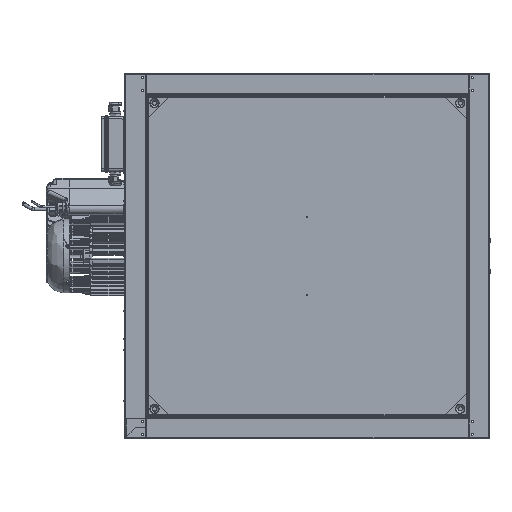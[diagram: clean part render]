
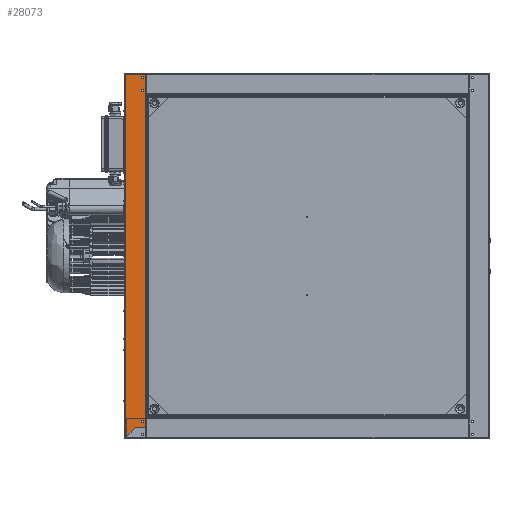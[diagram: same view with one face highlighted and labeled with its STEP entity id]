
A CAD part, left-side view. The second image highlights one B-rep face of the part: STEP entity #28073.
In plain terms, the highlighted planar face has unit normal (-1, 0, 0).
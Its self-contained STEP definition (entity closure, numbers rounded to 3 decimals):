
#166 = EDGE_CURVE ( 'NONE', #114293, #56010, #72582, .T. ) ;
#188 = DIRECTION ( 'NONE',  ( 0., 0.707, -0.707 ) ) ;
#2034 = ORIENTED_EDGE ( 'NONE', *, *, #84152, .T. ) ;
#2140 = CARTESIAN_POINT ( 'NONE',  ( -350., 313.9, 317.2 ) ) ;
#3537 = CARTESIAN_POINT ( 'NONE',  ( -350., 310.2, 348. ) ) ;
#6644 = VECTOR ( 'NONE', #188, 1000. ) ;
#6747 = DIRECTION ( 'NONE',  ( 0., -1., 0. ) ) ;
#7283 = DIRECTION ( 'NONE',  ( 0., -1., 0. ) ) ;
#8152 = VECTOR ( 'NONE', #7283, 1000. ) ;
#10938 = EDGE_LOOP ( 'NONE', ( #107677, #104925, #64910, #2034, #51948, #65530, #93089, #121740, #33857 ) ) ;
#11265 = VERTEX_POINT ( 'NONE', #112059 ) ;
#11554 = LINE ( 'NONE', #80572, #62040 ) ;
#11772 = CARTESIAN_POINT ( 'NONE',  ( -350., 348., 348.95 ) ) ;
#13887 = EDGE_LOOP ( 'NONE', ( #26558, #129930 ) ) ;
#14284 = PLANE ( 'NONE',  #72670 ) ;
#14961 = CARTESIAN_POINT ( 'NONE',  ( -350., 313.9, -317.2 ) ) ;
#17483 = CARTESIAN_POINT ( 'NONE',  ( -350., 310.7, -310.05 ) ) ;
#17492 = AXIS2_PLACEMENT_3D ( 'NONE', #110754, #37481, #40628 ) ;
#17962 = VECTOR ( 'NONE', #80640, 1000. ) ;
#20873 = ORIENTED_EDGE ( 'NONE', *, *, #109828, .F. ) ;
#21629 = VERTEX_POINT ( 'NONE', #77796 ) ;
#22605 = DIRECTION ( 'NONE',  ( -1., 0., 0. ) ) ;
#23143 = FACE_OUTER_BOUND ( 'NONE', #10938, .T. ) ;
#23406 = CARTESIAN_POINT ( 'NONE',  ( -350., 329.75, -329.1 ) ) ;
#24445 = DIRECTION ( 'NONE',  ( 0., 1., 0. ) ) ;
#25488 = VERTEX_POINT ( 'NONE', #25745 ) ;
#25745 = CARTESIAN_POINT ( 'NONE',  ( -350., 318.1, 317.2 ) ) ;
#26558 = ORIENTED_EDGE ( 'NONE', *, *, #93477, .F. ) ;
#28073 = ADVANCED_FACE ( 'NONE', ( #32718, #127507, #100612, #23143 ), #14284, .F. ) ;
#28160 = VERTEX_POINT ( 'NONE', #60060 ) ;
#29785 = EDGE_LOOP ( 'NONE', ( #20873, #64457 ) ) ;
#31087 = ORIENTED_EDGE ( 'NONE', *, *, #68506, .F. ) ;
#31294 = DIRECTION ( 'NONE',  ( -1., 0., 0. ) ) ;
#31893 = LINE ( 'NONE', #67693, #8152 ) ;
#32346 = VERTEX_POINT ( 'NONE', #58824 ) ;
#32610 = VECTOR ( 'NONE', #105358, 1000. ) ;
#32718 = FACE_BOUND ( 'NONE', #126374, .T. ) ;
#33857 = ORIENTED_EDGE ( 'NONE', *, *, #116671, .T. ) ;
#35409 = VECTOR ( 'NONE', #86029, 1000. ) ;
#36002 = CARTESIAN_POINT ( 'NONE',  ( -350., 316., 317.2 ) ) ;
#37481 = DIRECTION ( 'NONE',  ( -1., 0., 0. ) ) ;
#38557 = LINE ( 'NONE', #126366, #35409 ) ;
#39459 = CIRCLE ( 'NONE', #48799, 2.1 ) ;
#40628 = DIRECTION ( 'NONE',  ( 0., -1., 0. ) ) ;
#46092 = DIRECTION ( 'NONE',  ( 0., -1., 0. ) ) ;
#48799 = AXIS2_PLACEMENT_3D ( 'NONE', #83107, #22605, #93298 ) ;
#49241 = DIRECTION ( 'NONE',  ( -1., 0., 0. ) ) ;
#51948 = ORIENTED_EDGE ( 'NONE', *, *, #82629, .T. ) ;
#56010 = VERTEX_POINT ( 'NONE', #112890 ) ;
#58824 = CARTESIAN_POINT ( 'NONE',  ( -350., 310.2, 311.65 ) ) ;
#60060 = CARTESIAN_POINT ( 'NONE',  ( -350., 318.1, -317.2 ) ) ;
#60966 = CARTESIAN_POINT ( 'NONE',  ( -350., 310.2, -310.05 ) ) ;
#62040 = VECTOR ( 'NONE', #70410, 1000. ) ;
#63454 = LINE ( 'NONE', #121330, #6644 ) ;
#64129 = CARTESIAN_POINT ( 'NONE',  ( -350., 310.7, 348.95 ) ) ;
#64457 = ORIENTED_EDGE ( 'NONE', *, *, #106877, .F. ) ;
#64888 = VERTEX_POINT ( 'NONE', #14961 ) ;
#64910 = ORIENTED_EDGE ( 'NONE', *, *, #111955, .F. ) ;
#65171 = CIRCLE ( 'NONE', #117370, 2.1 ) ;
#65530 = ORIENTED_EDGE ( 'NONE', *, *, #94560, .T. ) ;
#65707 = LINE ( 'NONE', #17483, #116430 ) ;
#67163 = DIRECTION ( 'NONE',  ( -1., 0., 0. ) ) ;
#67693 = CARTESIAN_POINT ( 'NONE',  ( -350., 310.7, 311.65 ) ) ;
#68506 = EDGE_CURVE ( 'NONE', #28160, #64888, #39459, .T. ) ;
#70410 = DIRECTION ( 'NONE',  ( 0., 0., 1. ) ) ;
#70488 = CARTESIAN_POINT ( 'NONE',  ( -350., 310.2, -329.1 ) ) ;
#71551 = CARTESIAN_POINT ( 'NONE',  ( -350., 310.2, -310.05 ) ) ;
#71673 = LINE ( 'NONE', #70488, #17962 ) ;
#71980 = DIRECTION ( 'NONE',  ( 0., 0., 1. ) ) ;
#72582 = CIRCLE ( 'NONE', #17492, 2.1 ) ;
#72670 = AXIS2_PLACEMENT_3D ( 'NONE', #125258, #84924, #24445 ) ;
#73213 = CARTESIAN_POINT ( 'NONE',  ( -350., 348., -347.35 ) ) ;
#73564 = AXIS2_PLACEMENT_3D ( 'NONE', #91740, #31294, #101980 ) ;
#76466 = VERTEX_POINT ( 'NONE', #2140 ) ;
#77796 = CARTESIAN_POINT ( 'NONE',  ( -350., 348., 348. ) ) ;
#80572 = CARTESIAN_POINT ( 'NONE',  ( -350., 310.2, 311.65 ) ) ;
#80640 = DIRECTION ( 'NONE',  ( 0., -1., 0. ) ) ;
#82062 = CARTESIAN_POINT ( 'NONE',  ( -350., 318.1, 341.7 ) ) ;
#82629 = EDGE_CURVE ( 'NONE', #129104, #126004, #121095, .T. ) ;
#83103 = VERTEX_POINT ( 'NONE', #131139 ) ;
#83107 = CARTESIAN_POINT ( 'NONE',  ( -350., 316., -317.2 ) ) ;
#83352 = CIRCLE ( 'NONE', #120328, 2.1 ) ;
#84152 = EDGE_CURVE ( 'NONE', #91286, #129104, #71673, .T. ) ;
#84250 = EDGE_CURVE ( 'NONE', #21629, #99533, #89042, .T. ) ;
#84288 = CARTESIAN_POINT ( 'NONE',  ( -350., 310.2, -329.1 ) ) ;
#84924 = DIRECTION ( 'NONE',  ( 1., 0., 0. ) ) ;
#86029 = DIRECTION ( 'NONE',  ( 0., 1., 0. ) ) ;
#89042 = LINE ( 'NONE', #11772, #116030 ) ;
#89398 = LINE ( 'NONE', #64129, #32610 ) ;
#90164 = EDGE_CURVE ( 'NONE', #93932, #21629, #38557, .T. ) ;
#90760 = CIRCLE ( 'NONE', #73564, 2.1 ) ;
#90957 = VECTOR ( 'NONE', #71980, 1000. ) ;
#91286 = VERTEX_POINT ( 'NONE', #23406 ) ;
#91740 = CARTESIAN_POINT ( 'NONE',  ( -350., 316., 317.2 ) ) ;
#92156 = DIRECTION ( 'NONE',  ( 0., 0., -1. ) ) ;
#92304 = EDGE_CURVE ( 'NONE', #64888, #28160, #96047, .T. ) ;
#93089 = ORIENTED_EDGE ( 'NONE', *, *, #130890, .F. ) ;
#93298 = DIRECTION ( 'NONE',  ( 0., -1., 0. ) ) ;
#93477 = EDGE_CURVE ( 'NONE', #56010, #114293, #83352, .T. ) ;
#93932 = VERTEX_POINT ( 'NONE', #3537 ) ;
#94560 = EDGE_CURVE ( 'NONE', #126004, #83103, #65707, .T. ) ;
#96047 = CIRCLE ( 'NONE', #123636, 2.1 ) ;
#99533 = VERTEX_POINT ( 'NONE', #73213 ) ;
#100612 = FACE_BOUND ( 'NONE', #13887, .T. ) ;
#101980 = DIRECTION ( 'NONE',  ( 0., -1., 0. ) ) ;
#104925 = ORIENTED_EDGE ( 'NONE', *, *, #84250, .T. ) ;
#105358 = DIRECTION ( 'NONE',  ( 0., 0., -1. ) ) ;
#106698 = DIRECTION ( 'NONE',  ( -1., 0., 0. ) ) ;
#106877 = EDGE_CURVE ( 'NONE', #25488, #76466, #65171, .T. ) ;
#107677 = ORIENTED_EDGE ( 'NONE', *, *, #90164, .T. ) ;
#109828 = EDGE_CURVE ( 'NONE', #76466, #25488, #90760, .T. ) ;
#109874 = CARTESIAN_POINT ( 'NONE',  ( -350., 316., 341.7 ) ) ;
#110754 = CARTESIAN_POINT ( 'NONE',  ( -350., 316., 341.7 ) ) ;
#111955 = EDGE_CURVE ( 'NONE', #91286, #99533, #63454, .T. ) ;
#112059 = CARTESIAN_POINT ( 'NONE',  ( -350., 310.7, 311.65 ) ) ;
#112202 = EDGE_CURVE ( 'NONE', #11265, #32346, #31893, .T. ) ;
#112890 = CARTESIAN_POINT ( 'NONE',  ( -350., 313.9, 341.7 ) ) ;
#114293 = VERTEX_POINT ( 'NONE', #82062 ) ;
#116030 = VECTOR ( 'NONE', #92156, 1000. ) ;
#116430 = VECTOR ( 'NONE', #128434, 1000. ) ;
#116671 = EDGE_CURVE ( 'NONE', #32346, #93932, #11554, .T. ) ;
#117370 = AXIS2_PLACEMENT_3D ( 'NONE', #36002, #106698, #46092 ) ;
#120024 = ORIENTED_EDGE ( 'NONE', *, *, #92304, .F. ) ;
#120039 = DIRECTION ( 'NONE',  ( 0., -1., 0. ) ) ;
#120328 = AXIS2_PLACEMENT_3D ( 'NONE', #109874, #49241, #120039 ) ;
#121095 = LINE ( 'NONE', #71551, #90957 ) ;
#121330 = CARTESIAN_POINT ( 'NONE',  ( -350., 349.1, -348.45 ) ) ;
#121740 = ORIENTED_EDGE ( 'NONE', *, *, #112202, .T. ) ;
#123636 = AXIS2_PLACEMENT_3D ( 'NONE', #127800, #67163, #6747 ) ;
#125258 = CARTESIAN_POINT ( 'NONE',  ( -350., 350., 348.95 ) ) ;
#126004 = VERTEX_POINT ( 'NONE', #60966 ) ;
#126366 = CARTESIAN_POINT ( 'NONE',  ( -350., 310.2, 348. ) ) ;
#126374 = EDGE_LOOP ( 'NONE', ( #120024, #31087 ) ) ;
#127507 = FACE_BOUND ( 'NONE', #29785, .T. ) ;
#127800 = CARTESIAN_POINT ( 'NONE',  ( -350., 316., -317.2 ) ) ;
#128434 = DIRECTION ( 'NONE',  ( 0., 1., 0. ) ) ;
#129104 = VERTEX_POINT ( 'NONE', #84288 ) ;
#129930 = ORIENTED_EDGE ( 'NONE', *, *, #166, .F. ) ;
#130890 = EDGE_CURVE ( 'NONE', #11265, #83103, #89398, .T. ) ;
#131139 = CARTESIAN_POINT ( 'NONE',  ( -350., 310.7, -310.05 ) ) ;
